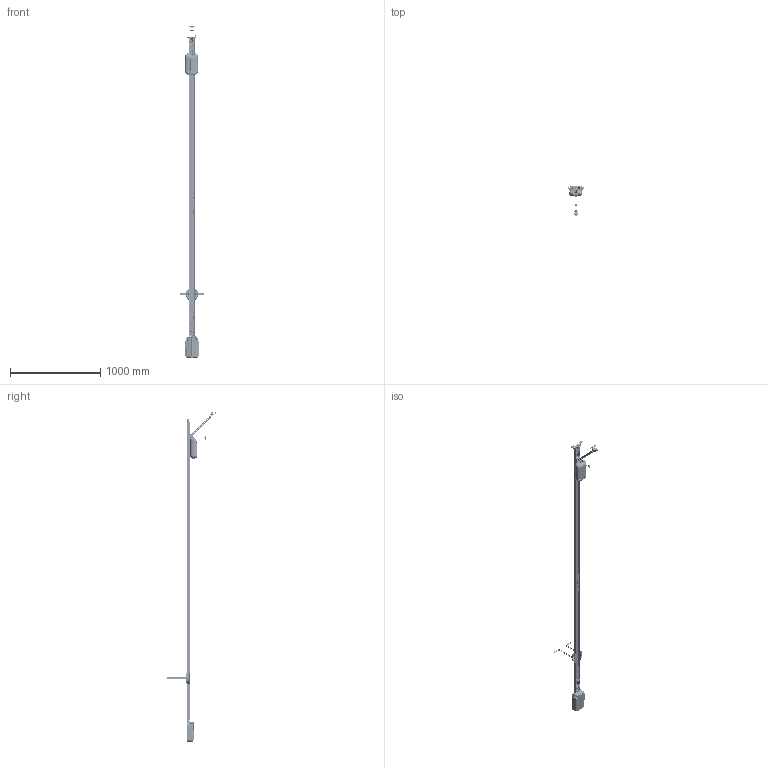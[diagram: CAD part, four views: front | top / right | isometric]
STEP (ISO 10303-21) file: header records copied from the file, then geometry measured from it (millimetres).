
FILE_DESCRIPTION (( 'STEP AP203' ), '1' );
FILE_NAME ('Sxxx base+ Baugruppe_20150331_3D_Kunden_DUMMY.STEP', '2015-03-31T11:46:42', ( 'admin' ), ( '' ), 'SwSTEP 2.0', 'SolidWorks 2014', '' );
FILE_SCHEMA (( 'CONFIG_CONTROL_DESIGN' ));
Length unit declared in the file: millimetre
Products named in the file (50): 40074_Sturzbefestigungswinkel_ReferenzMBA201502; Rollenkette_18_Glieder_langMBA201502_mit Kettenkanal links; 40080_Druckfeder_Kettenspannung_GTAMBA201502; 90017_Haube_mit Fenster_Cover_with_Window_3D_Kunden_DUMMY; 40036_Scheibe_U_DIN9022-8_4x20x1_5DUMMY; 90034_Schubarm_Drive_Shaft_325mmMBA201502; 40065_Deckenhalter_Lochbandeisen_Slotted_Stripsteel_Bracket_Ref_243x75x18x2,5MBA201502; 90030_Isolator_Haelfte_Insulator_Half_Rollenkette_Roller_ChainMBA201502; 10068_Schraube Aussensechskant_M8x80-50 8.8 A2K_Flansch_Sonder_ISO 4162MBA201502; 90020_Seitenteil_Laufwagen_Side_Part_Carriage_3D_Kunden_DUMMY; 13913_Sechskantmutter_selbstsichernd_ISO10511_M6_VADUMMY; 1600V000_Torbeschlagwinkel_einteilig_DoorBracket_Onepiece_DUMMY; 50771_Sicherungsmutter_RIPP_LOCK_M8_W193100VZ8MBA201502; 90128_Schaltschieber_LimitStopMBA201502; Einschubteil_duo_kplMBA201502_Standard, ohne Einspeisung; DUMMY_Laufwagen_Kunden_3D_DUMMY_2015_DUMMY; 90064_Lampenabdeckung_Deckensteuerung_LightCover_Ceiling_Control_Unit_3D_DUMMY; 90010_Gehäuseunterteil_Deckensteuerung_Housing_Base_Ceiling_Control_Unit_3D_DUMMY; 90038_Deckenaufhängung_Haelfte_CeilingSuspensionBracket_Half_3D_KUNDE_DUMMY; 80028_Schraube_Thermoplaste_AMTEC_3,5x16_Linsenkopf_Z2MBA201502; RolleMBA201502; Sxxx base+ Baugruppe_20150331_3D_Kunden_DUMMY; 10286V000_Laufschiene_guide_rail_1.25mm_1096mmMBA201502; 2000_Deckensteuerung_Ceiling_Control_Unit_3D_Kunde_DUMMY; 90005_Gehäuseoberteil_Deckensteuerung_Housing_Cover_Ceiling_Control_Unit_3D_DUMMY; 90038_Baugruppe_Kunde_3D_DUMMY; 90133_Schaltschieber_LimitStopMBA201502; AchseMBA201502; 10277V000_Laufschiene_Verbindungselement_guide_rail_joining_element_1.25_L400mm_Index_dMBA201502_unbelastet H=1,6 mm; 10153_Kordel_Nylon_1200x4mm_schematisch_DUMMY; 80028_Schraube_Thermoplaste_AMTEC_3,5x16_Linsenkopf_Z2DUMMY; 50772_Flachrundschraube_Vierkantansatz_DIN603_M8x25MBA201502_ohne Mutter; Laufschiene_mit KetteMBA201502_neuer Schaltschieber; SeitenteilInnenMBA201502; 10074_Einschubteil_3D_DUMMY; C10161_T-Griff_T-Handle_DUMMY; 10077_Spannelement_BlechDUMMY; Baugruppe_Deckenaufhängung_2-teilig_3D_Kunde_DUMMY_ohne Schrauben; 10073_Sechskantschraube_DIN931_M10x100MBA201502; SeitenteilAussenMBA201502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
Assembly tree (92 placements, depth 5):
  Sxxx base+ Baugruppe_20150331_3D_Kunden_DUMMY
    Laufschiene_mit KetteMBA201502_neuer Schaltschieber
      10286V000_Laufschiene_guide_rail_1.25mm_1096mmMBA201502  x3
      10277V000_Laufschiene_Verbindungselement_guide_rail_joining_element_1.25_L400mm_Index_dMBA201502_unbelastet H=1,6 mm  x2
      Einschubteil_duo_kplMBA201502_Standard, ohne Einspeisung
        10074_Einschubteil_3D_DUMMY
        40036_Scheibe_U_DIN9022-8_4x20x1_5MBA201502  x2
        10077_Spannelement_BlechMBA201502
        40080_Druckfeder_Kettenspannung_GTAMBA201502
        10068_Schraube Aussensechskant_M8x80-50 8.8 A2K_Flansch_Sonder_ISO 4162MBA201502
      Rollenkette_18_Glieder_langMBA201502_mit Kettenkanal links  x3
        Rollenkette1MBA201502
          RolleMBA201502  x6
          AchseMBA201502  x4
          SeitenteilInnenMBA201502  x6
          SeitenteilAussenMBA201502  x4
        SeitenteilAussenMBA201502
        AchseMBA201502
      90030_Isolator_Haelfte_Insulator_Half_Rollenkette_Roller_ChainMBA201502  x2
      90133_Schaltschieber_LimitStopMBA201502
        90128_Schaltschieber_LimitStopMBA201502
        80028_Schraube_Thermoplaste_AMTEC_3,5x16_Linsenkopf_Z2MBA201502
    10073_Sechskantschraube_DIN931_M10x100MBA201502
    40037_Sechskantmutter_selbstsichernd_ISO10511_M10MBA201502
    40074_Sturzbefestigungswinkel_ReferenzMBA201502  x2
    40036_Scheibe_U_DIN9022-8_4x20x1_5MBA201502
    Baugruppe_Deckenaufhängung_2-teilig_3D_Kunde_DUMMY_ohne Schrauben
      40065_Deckenhalter_Lochbandeisen_Slotted_Stripsteel_Bracket_Ref_243x75x18x2,5MBA201502  x2
      50771_Sicherungsmutter_RIPP_LOCK_M8_W193100VZ8MBA201502  x2
      90038_Baugruppe_Kunde_3D_DUMMY
        90038_Deckenaufhängung_Haelfte_CeilingSuspensionBracket_Half_3D_KUNDE_DUMMY  x2
      50772_Flachrundschraube_Vierkantansatz_DIN603_M8x25MBA201502_ohne Mutter  x2
    10056_Bolzen_mit_Kopf_9,9x34,5x30,5MBA201502  x2
    40007_Sicherung KL10 f黵 8er NutMBA201502  x2
    90034_Schubarm_Drive_Shaft_325mmMBA201502
    1600V000_Torbeschlagwinkel_einteilig_DoorBracket_Onepiece_DUMMY
    2000_Deckensteuerung_Ceiling_Control_Unit_3D_Kunde_DUMMY
      90010_Gehäuseunterteil_Deckensteuerung_Housing_Base_Ceiling_Control_Unit_3D_DUMMY
      90005_Gehäuseoberteil_Deckensteuerung_Housing_Cover_Ceiling_Control_Unit_3D_DUMMY
      80028_Schraube_Thermoplaste_AMTEC_3,5x16_Linsenkopf_Z2DUMMY  x3
      10077_Spannelement_BlechDUMMY
      10068_Schraube Aussensechskant_M8x80-50 8.8 A2K_Flansch_Sonder_ISO 4162DUMMY
      40080_Druckfeder_Kettenspannung_GTADUMMY_gespannt
      40036_Scheibe_U_DIN9022-8_4x20x1_5DUMMY
      13913_Sechskantmutter_selbstsichernd_ISO10511_M6_VADUMMY
      90064_Lampenabdeckung_Deckensteuerung_LightCover_Ceiling_Control_Unit_3D_DUMMY
    DUMMY_Laufwagen_Kunden_3D_DUMMY_2015_DUMMY
      4622V002_Laufwagenentriegelung_kpl_ LW_klein_Nylonkordel_synorisDUMMY(ohne Pendel)
        10153_Kordel_Nylon_1200x4mm_schematisch_DUMMY
        C10161_T-Griff_T-Handle_DUMMY
      90001_Unterteil_Laufwagen_Base_Carriage_3D_Kunden_DUMMY
      90017_Haube_mit Fenster_Cover_with_Window_3D_Kunden_DUMMY
      90020_Seitenteil_Laufwagen_Side_Part_Carriage_3D_Kunden_DUMMY
Bounding box: 257 x 542.93 x 3671.35 mm (x, y, z)
Volume: 4090361.2 mm3; surface area: 2144945.3 mm2
Topology: 261 solids, 276 shells, 16402 faces, 40536 edges, 24737 vertices
Faces by surface type: cylinder 5621, plane 4609, bspline 3967, torus 1107, cone 712, sphere 386
Entity records: 510239 total; most frequent: CARTESIAN_POINT 247575, ORIENTED_EDGE 59932, DIRECTION 45922, EDGE_CURVE 29966, VERTEX_POINT 18051, AXIS2_PLACEMENT_3D 17177, EDGE_LOOP 12577, ADVANCED_FACE 12190
